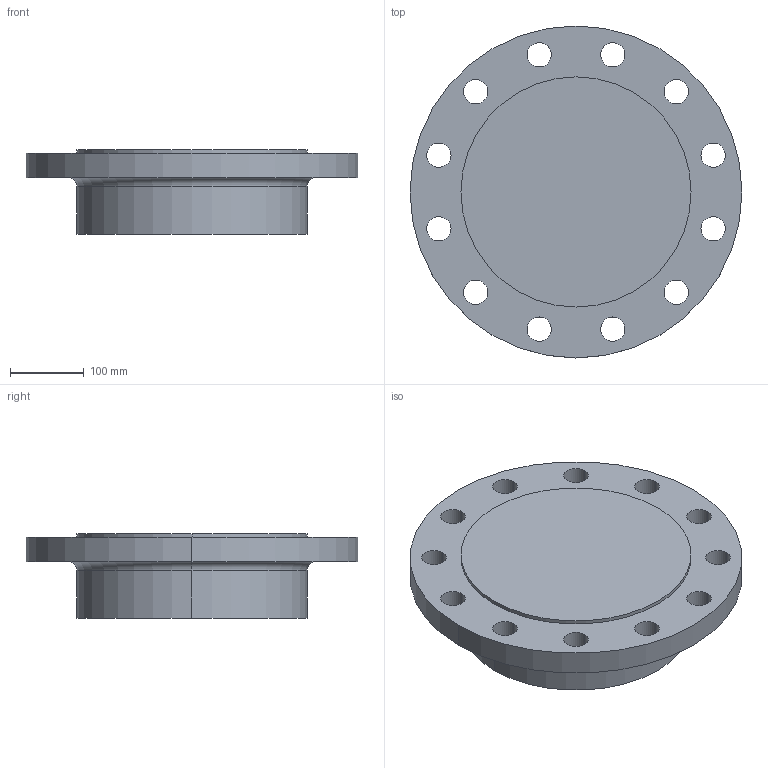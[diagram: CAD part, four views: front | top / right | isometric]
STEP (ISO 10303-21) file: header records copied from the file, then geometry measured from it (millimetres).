
FILE_DESCRIPTION (( 'STEP AP214' ), '1' );
FILE_NAME ('PN40 DN250 Type 21(i) - Type E Face.STEP', '2019-01-05T15:54:35', ( '' ), ( '' ), 'SwSTEP 2.0', 'SolidWorks 2019', '' );
FILE_SCHEMA (( 'AUTOMOTIVE_DESIGN' ));
Length unit declared in the file: millimetre
Products named in the file (1): PN40 DN250 Type 21(i) - Type E Face
Bounding box: 450 x 450 x 115 mm (x, y, z)
Volume: 11209747 mm3; surface area: 460656.3 mm2
Topology: 1 solids, 1 shells, 36 faces, 94 edges, 62 vertices
Faces by surface type: cylinder 30, plane 4, torus 2
Entity records: 1228 total; most frequent: DIRECTION 232, CARTESIAN_POINT 193, ORIENTED_EDGE 188, AXIS2_PLACEMENT_3D 101, EDGE_CURVE 94, CIRCLE 64, EDGE_LOOP 62, VERTEX_POINT 62
